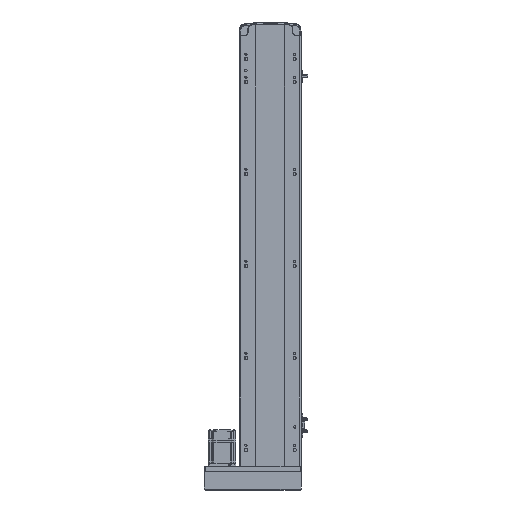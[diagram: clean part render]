
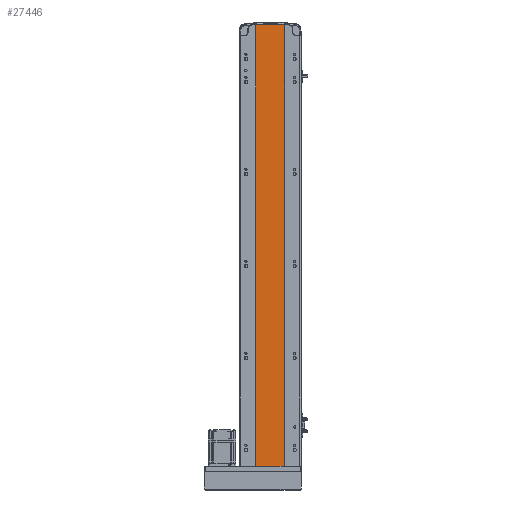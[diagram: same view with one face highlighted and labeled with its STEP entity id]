
A CAD part, front view. The second image highlights one B-rep face of the part: STEP entity #27446.
In plain terms, the highlighted planar face has unit normal (0, -1, 0).
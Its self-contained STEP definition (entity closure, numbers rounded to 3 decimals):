
#432 = LINE ( 'NONE', #33141, #46516 ) ;
#1114 = DIRECTION ( 'NONE',  ( 0., 1., 0. ) ) ;
#2152 = VERTEX_POINT ( 'NONE', #34171 ) ;
#6010 = VERTEX_POINT ( 'NONE', #40397 ) ;
#6210 = DIRECTION ( 'NONE',  ( 0., 0., -1. ) ) ;
#9846 = FACE_OUTER_BOUND ( 'NONE', #14664, .T. ) ;
#10650 = ORIENTED_EDGE ( 'NONE', *, *, #25026, .F. ) ;
#10745 = CARTESIAN_POINT ( 'NONE',  ( -32., 1., 0. ) ) ;
#11836 = EDGE_CURVE ( 'NONE', #15481, #6010, #28171, .T. ) ;
#12786 = VERTEX_POINT ( 'NONE', #52594 ) ;
#13763 = CARTESIAN_POINT ( 'NONE',  ( -32., 1., 959. ) ) ;
#14664 = EDGE_LOOP ( 'NONE', ( #48759, #32244, #10650, #55460 ) ) ;
#15261 = VECTOR ( 'NONE', #54630, 1000. ) ;
#15481 = VERTEX_POINT ( 'NONE', #43336 ) ;
#22767 = LINE ( 'NONE', #46192, #42302 ) ;
#25026 = EDGE_CURVE ( 'NONE', #12786, #2152, #432, .T. ) ;
#27446 = ADVANCED_FACE ( 'NONE', ( #9846 ), #49950, .F. ) ;
#28171 = LINE ( 'NONE', #10745, #33035 ) ;
#32244 = ORIENTED_EDGE ( 'NONE', *, *, #40451, .F. ) ;
#32337 = CARTESIAN_POINT ( 'NONE',  ( -32., 1., 959. ) ) ;
#33035 = VECTOR ( 'NONE', #41987, 1000. ) ;
#33141 = CARTESIAN_POINT ( 'NONE',  ( -32., 1., 959. ) ) ;
#34171 = CARTESIAN_POINT ( 'NONE',  ( 30., 1., 959. ) ) ;
#39030 = LINE ( 'NONE', #13763, #15261 ) ;
#40397 = CARTESIAN_POINT ( 'NONE',  ( 30., 1., 0. ) ) ;
#40451 = EDGE_CURVE ( 'NONE', #2152, #6010, #22767, .T. ) ;
#41987 = DIRECTION ( 'NONE',  ( 1., 0., 0. ) ) ;
#42302 = VECTOR ( 'NONE', #6210, 1000. ) ;
#43336 = CARTESIAN_POINT ( 'NONE',  ( -32., 1., 0. ) ) ;
#46192 = CARTESIAN_POINT ( 'NONE',  ( 30., 1., 959. ) ) ;
#46516 = VECTOR ( 'NONE', #55119, 1000. ) ;
#48759 = ORIENTED_EDGE ( 'NONE', *, *, #11836, .T. ) ;
#49344 = EDGE_CURVE ( 'NONE', #12786, #15481, #39030, .T. ) ;
#49950 = PLANE ( 'NONE',  #53675 ) ;
#52594 = CARTESIAN_POINT ( 'NONE',  ( -32., 1., 959. ) ) ;
#53675 = AXIS2_PLACEMENT_3D ( 'NONE', #32337, #1114, #54499 ) ;
#54499 = DIRECTION ( 'NONE',  ( -1., 0., 0. ) ) ;
#54630 = DIRECTION ( 'NONE',  ( 0., 0., -1. ) ) ;
#55119 = DIRECTION ( 'NONE',  ( 1., 0., 0. ) ) ;
#55460 = ORIENTED_EDGE ( 'NONE', *, *, #49344, .T. ) ;
